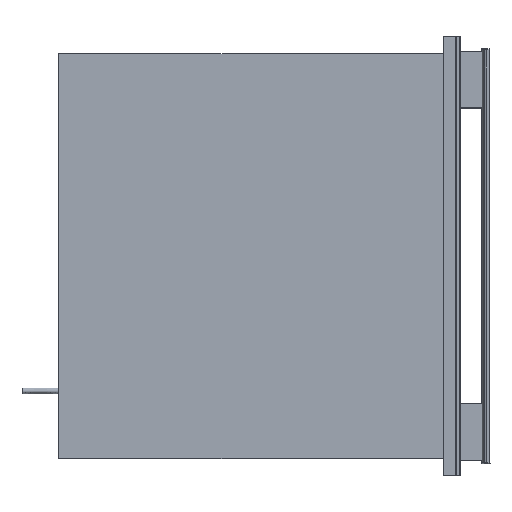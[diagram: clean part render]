
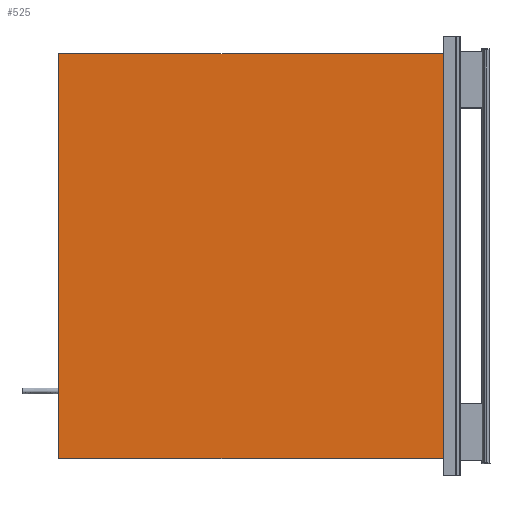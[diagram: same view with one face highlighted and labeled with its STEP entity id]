
A CAD part, top view. The second image highlights one B-rep face of the part: STEP entity #525.
In plain terms, the highlighted free-form (B-spline) face has degree [1, 1] with [2, 2] control points.
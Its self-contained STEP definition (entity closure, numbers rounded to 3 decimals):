
#525=ADVANCED_FACE('',(#791),#3082,.T.);
#791=FACE_OUTER_BOUND('',#1059,.T.);
#1059=EDGE_LOOP('',(#1467,#1468,#1469,#1470));
#1467=ORIENTED_EDGE('',*,*,#2352,.T.);
#1468=ORIENTED_EDGE('',*,*,#2348,.T.);
#1469=ORIENTED_EDGE('',*,*,#2351,.F.);
#1470=ORIENTED_EDGE('',*,*,#2345,.F.);
#2345=EDGE_CURVE('',#2806,#2807,#3364,.T.);
#2348=EDGE_CURVE('',#2808,#2809,#3367,.T.);
#2351=EDGE_CURVE('',#2807,#2809,#3370,.T.);
#2352=EDGE_CURVE('',#2806,#2808,#3371,.T.);
#2806=VERTEX_POINT('',#4426);
#2807=VERTEX_POINT('',#4427);
#2808=VERTEX_POINT('',#4428);
#2809=VERTEX_POINT('',#4429);
#3082=B_SPLINE_SURFACE_WITH_KNOTS('',1,1,((#4402,#4403),(#4404,#4405)),.UNSPECIFIED.,
.F.,.F.,.F.,(2,2),(2,2),(0.048,0.96),(0.075,
0.943),.UNSPECIFIED.);
#3364=B_SPLINE_CURVE_WITH_KNOTS('',3,(#4274,#4275,#4276,#4277),.UNSPECIFIED.,
.F.,.F.,(4,4),(23.843,571.345),.UNSPECIFIED.);
#3367=B_SPLINE_CURVE_WITH_KNOTS('',1,(#4292,#4293),.UNSPECIFIED.,.F.,.F.,
(2,2),(0.04,0.952),.UNSPECIFIED.);
#3370=B_SPLINE_CURVE_WITH_KNOTS('',1,(#4298,#4299),.UNSPECIFIED.,.F.,.F.,
(2,2),(0.075,0.943),.UNSPECIFIED.);
#3371=B_SPLINE_CURVE_WITH_KNOTS('',1,(#4300,#4301),.UNSPECIFIED.,.F.,.F.,
(2,2),(0.075,0.943),.UNSPECIFIED.);
#4274=CARTESIAN_POINT('',(-520.5,-274.195,445.061));
#4275=CARTESIAN_POINT('',(-520.5,-91.694,445.061));
#4276=CARTESIAN_POINT('',(-520.5,90.806,445.061));
#4277=CARTESIAN_POINT('',(-520.5,273.307,445.061));
#4292=CARTESIAN_POINT('',(0.,-274.195,445.061));
#4293=CARTESIAN_POINT('',(0.,273.307,445.061));
#4298=CARTESIAN_POINT('',(-520.5,273.307,445.061));
#4299=CARTESIAN_POINT('',(0.,273.307,445.061));
#4300=CARTESIAN_POINT('',(-520.5,-274.195,445.061));
#4301=CARTESIAN_POINT('',(0.,-274.195,445.061));
#4402=CARTESIAN_POINT('',(-520.5,273.307,445.061));
#4403=CARTESIAN_POINT('',(0.,273.307,445.061));
#4404=CARTESIAN_POINT('',(-520.5,-274.195,445.061));
#4405=CARTESIAN_POINT('',(0.,-274.195,445.061));
#4426=CARTESIAN_POINT('',(-520.5,-274.195,445.061));
#4427=CARTESIAN_POINT('',(-520.5,273.307,445.061));
#4428=CARTESIAN_POINT('',(0.,-274.195,445.061));
#4429=CARTESIAN_POINT('',(0.,273.307,445.061));
